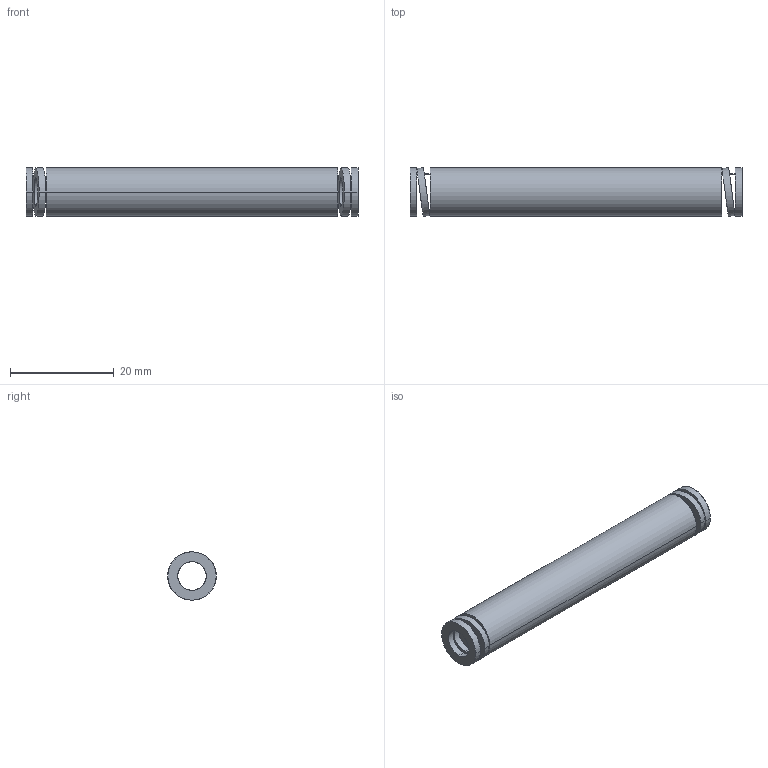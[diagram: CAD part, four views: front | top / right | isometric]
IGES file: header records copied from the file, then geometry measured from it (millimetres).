
Start section: START RECORD GO HERE.
Global section: file name: 392-B10-064.igs; native system: DASSAULT SYSTEMES CATIA V5 R20 - www.3ds.com; preprocessor: CATIA Version 5 Release 20 ; author: Utente; organization: NB04-ASUS; date: 20210812.145334; units: millimetre
Bounding box: 64 x 9.39 x 9.3 mm (x, y, z)
Surface area: 3301.3 mm2 (no closed solid volume)
Topology: 0 solids, 0 shells, 38 faces, 184 edges, 184 vertices
Faces by surface type: revolution 28, plane 10
